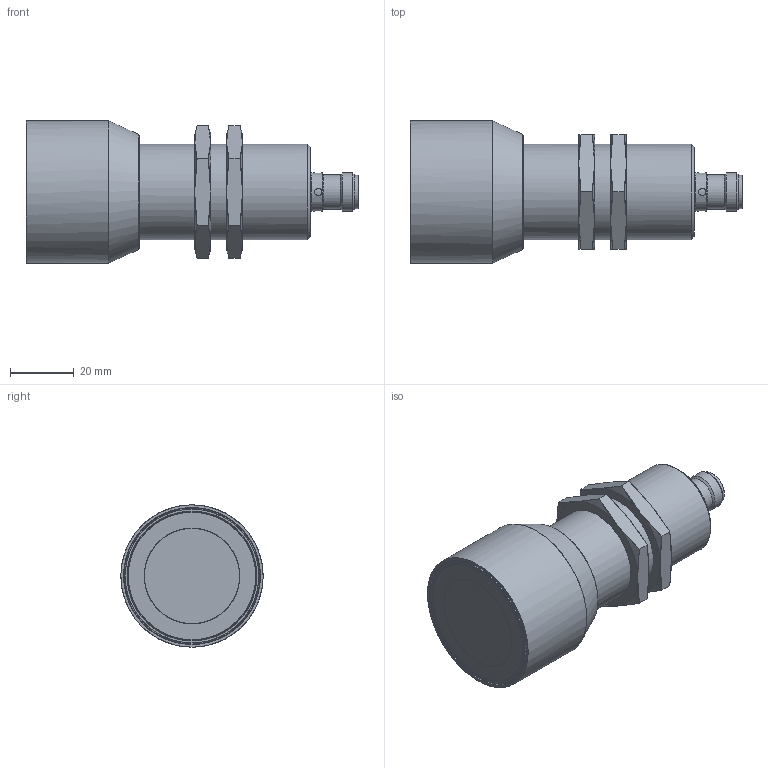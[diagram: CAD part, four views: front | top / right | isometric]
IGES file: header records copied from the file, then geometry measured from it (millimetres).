
Global section: file name: H:\lem\3DCAD_DMU430B_6000_PTx_M12.igs; native system: NX V11.0; preprocessor: SIEMENS PLM Software NX 11.0; date: 20190401.114637; units: millimetre
Bounding box: 104.3 x 44.7 x 44.7 mm (x, y, z)
Surface area: 17468.7 mm2 (no closed solid volume)
Topology: 0 solids, 0 shells, 113 faces, 1075 edges, 1048 vertices
Faces by surface type: bspline 113
